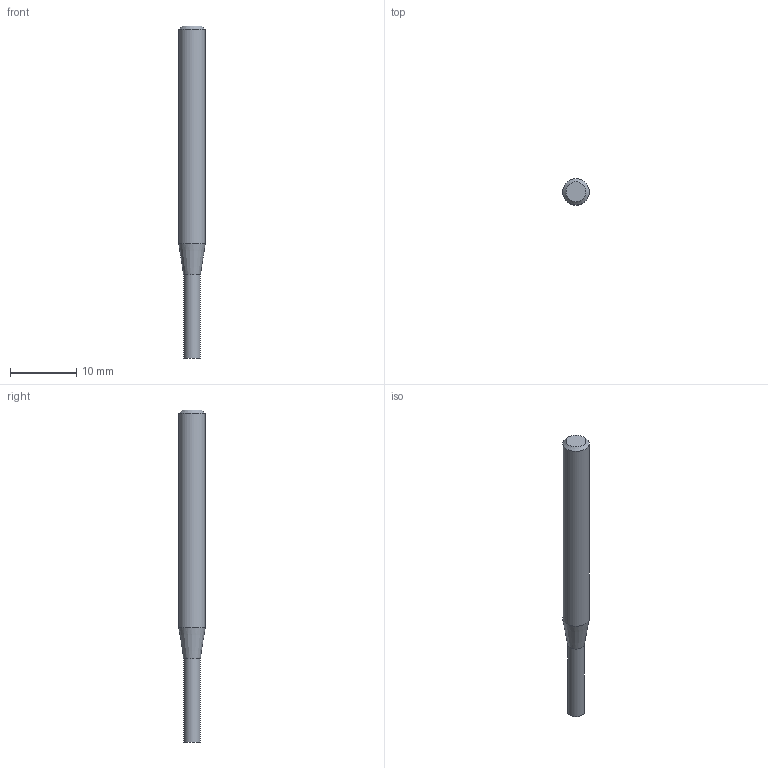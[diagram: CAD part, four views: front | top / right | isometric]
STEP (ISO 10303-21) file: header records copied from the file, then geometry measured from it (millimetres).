
FILE_DESCRIPTION((''),'2;1');
FILE_NAME('C:\Users\nsx150\AppData\Local\Temp\Mastercam 2021\W9Z147XDNF\TEMP.step','2021-04-08T14:50:15',(''),(''),'STEP Write','Mastercam 2021 ... CNC Software, Inc.','');
FILE_SCHEMA(('AUTOMOTIVE_DESIGN'));
Length unit declared in the file: millimetre
Products named in the file (1): None
Bounding box: 4 x 4 x 50 mm (x, y, z)
Volume: 511.6 mm3; surface area: 582.1 mm2
Topology: 2 solids, 2 shells, 8 faces, 10 edges, 6 vertices
Faces by surface type: plane 4, cylinder 2, cone 2
Full cylindrical faces by diameter (mm): 2.5 x1, 4 x1
Entity records: 190 total; most frequent: DIRECTION 32, CARTESIAN_POINT 22, AXIS2_PLACEMENT_3D 16, ORIENTED_EDGE 12, EDGE_LOOP 12, STYLED_ITEM 11, ADVANCED_FACE 8, VERTEX_POINT 6
